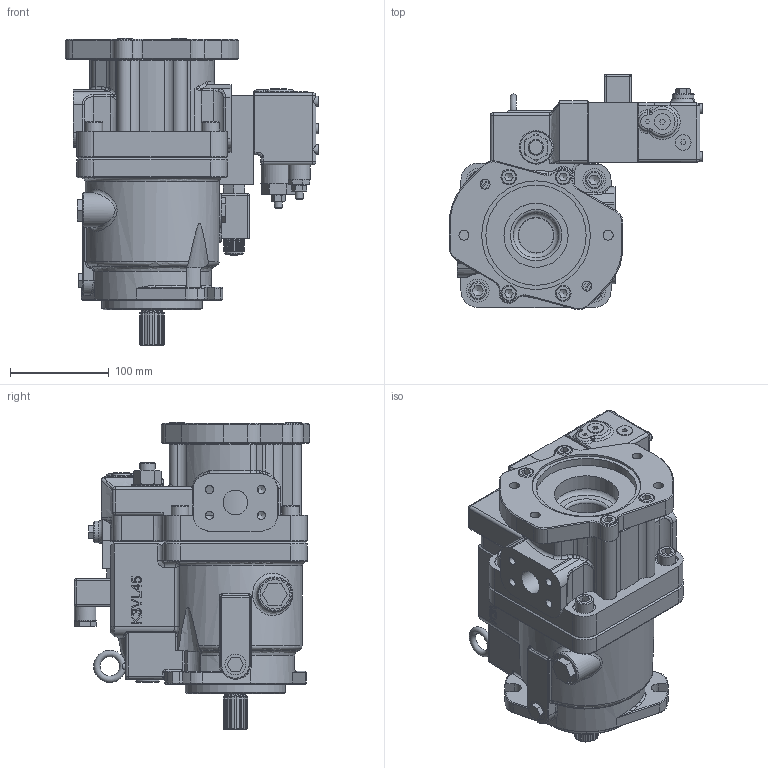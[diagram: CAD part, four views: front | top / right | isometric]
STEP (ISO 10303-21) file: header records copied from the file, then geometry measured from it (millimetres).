
FILE_DESCRIPTION((''),'2;1');
FILE_NAME('I:\3D Step files\Approved for WEB\K3V\K3VL45B 1BBLSM PM24VDC.stp','2012-02-02T14:41:59',('mnorman'),(''),'Autodesk Inventor 2012','Autodesk Inventor 2012','');
FILE_SCHEMA(('AUTOMOTIVE_DESIGN { 1 0 10303 214 1 1 1 1 }'));
Length unit declared in the file: millimetre
Products named in the file (1): Part2
Bounding box: 257 x 238.21 x 311 mm (x, y, z)
Volume: 5581224.9 mm3; surface area: 405522.9 mm2
Topology: 24 solids, 25 shells, 1504 faces, 3697 edges, 2307 vertices
Faces by surface type: plane 693, cylinder 379, cone 194, bspline 138, torus 77, sphere 23
Full cylindrical faces by diameter (mm): 4 x1, 4.917 x4, 5 x2, 6 x4, 6.5 x4, 6.6 x4, 6.647 x4, 8 x5, 8.376 x11, 10 x4, 10.106 x12, 11 x5, 12 x4, 12.7 x1, 13.835 x1, 15.5 x4, 16 x3, 18 x4, 21 x1, 21.3 x1, 22 x3, 23 x4, 24 x1, 25 x1, 30 x4, 32 x2, 35.5 x1, 36 x1, 38 x1, 46 x1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
Entity records: 48726 total; most frequent: CARTESIAN_POINT 13963, ORIENTED_EDGE 6836, DIRECTION 6679, EDGE_CURVE 3418, AXIS2_PLACEMENT_3D 2491, VERTEX_POINT 2225, EDGE_LOOP 1791, VECTOR 1697
